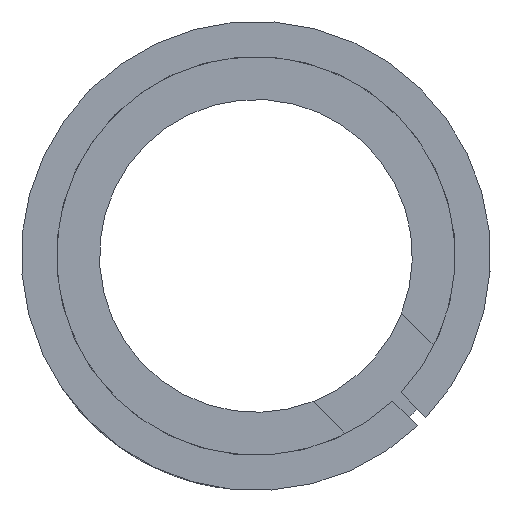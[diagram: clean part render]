
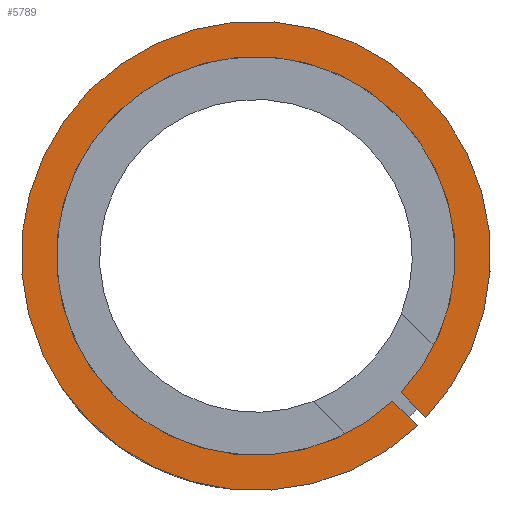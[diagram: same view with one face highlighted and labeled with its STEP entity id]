
A CAD part, left-side view. The second image highlights one B-rep face of the part: STEP entity #5789.
In plain terms, the highlighted planar face has unit normal (-1, 0, 0).
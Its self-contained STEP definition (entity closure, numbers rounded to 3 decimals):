
#129=PLANE('',#6235);
#425=LINE('',#9305,#930);
#426=LINE('',#9307,#931);
#930=VECTOR('',#6863,1000.);
#931=VECTOR('',#6864,1000.);
#1387=CIRCLE('',#6211,60.);
#1402=CIRCLE('',#6236,51.);
#1781=ORIENTED_EDGE('',*,*,#3527,.T.);
#1782=ORIENTED_EDGE('',*,*,#3490,.T.);
#1783=ORIENTED_EDGE('',*,*,#3528,.T.);
#1784=ORIENTED_EDGE('',*,*,#3529,.F.);
#3490=EDGE_CURVE('',#4365,#4367,#1387,.T.);
#3527=EDGE_CURVE('',#4396,#4365,#425,.T.);
#3528=EDGE_CURVE('',#4367,#4397,#426,.T.);
#3529=EDGE_CURVE('',#4396,#4397,#1402,.T.);
#4365=VERTEX_POINT('',#9225);
#4367=VERTEX_POINT('',#9229);
#4396=VERTEX_POINT('',#9306);
#4397=VERTEX_POINT('',#9308);
#4958=EDGE_LOOP('',(#1781,#1782,#1783,#1784));
#5363=FACE_BOUND('',#4958,.T.);
#5789=ADVANCED_FACE('',(#5363),#129,.F.);
#6211=AXIS2_PLACEMENT_3D('',#9230,#6791,#6792);
#6235=AXIS2_PLACEMENT_3D('',#9304,#6861,#6862);
#6236=AXIS2_PLACEMENT_3D('',#9309,#6865,#6866);
#6791=DIRECTION('',(-1.,0.,0.));
#6792=DIRECTION('',(0.,0.,1.));
#6861=DIRECTION('',(1.,0.,0.));
#6862=DIRECTION('',(0.,0.,-1.));
#6863=DIRECTION('',(0.,-0.707,-0.707));
#6864=DIRECTION('',(0.,0.707,0.707));
#6865=DIRECTION('',(-1.,0.,0.));
#6866=DIRECTION('',(0.,0.,1.));
#9225=CARTESIAN_POINT('',(0.,-43.474,-41.352));
#9229=CARTESIAN_POINT('',(0.,-41.352,-43.474));
#9230=CARTESIAN_POINT('',(0.,0.,0.));
#9304=CARTESIAN_POINT('',(0.,60.,0.));
#9305=CARTESIAN_POINT('',(0.,-37.108,-34.986));
#9306=CARTESIAN_POINT('',(0.,-37.108,-34.986));
#9307=CARTESIAN_POINT('',(0.,-41.352,-43.474));
#9308=CARTESIAN_POINT('',(0.,-34.986,-37.108));
#9309=CARTESIAN_POINT('',(0.,0.,0.));
